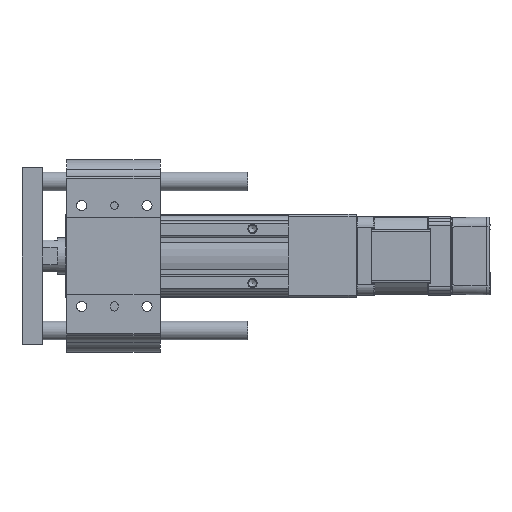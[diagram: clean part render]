
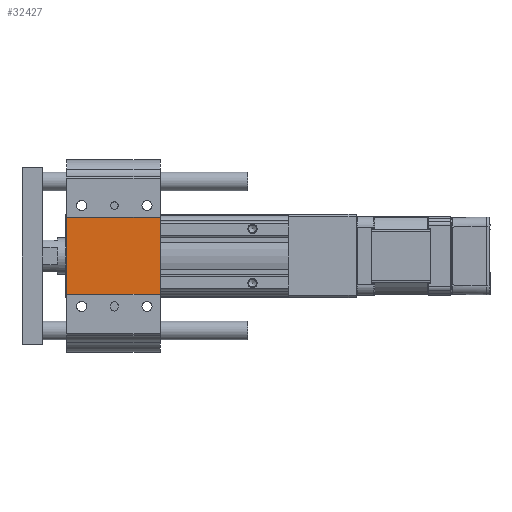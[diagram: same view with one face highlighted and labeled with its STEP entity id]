
A CAD part, front view. The second image highlights one B-rep face of the part: STEP entity #32427.
In plain terms, the highlighted planar face has unit normal (0, -1, 0).
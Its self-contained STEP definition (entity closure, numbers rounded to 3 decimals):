
#84 = DIRECTION ( 'NONE',  ( 0., 0., 1. ) ) ;
#1435 = ORIENTED_EDGE ( 'NONE', *, *, #40818, .T. ) ;
#1493 = VERTEX_POINT ( 'NONE', #9814 ) ;
#1783 = FACE_OUTER_BOUND ( 'NONE', #5564, .T. ) ;
#2848 = DIRECTION ( 'NONE',  ( 0., 0., 1. ) ) ;
#5564 = EDGE_LOOP ( 'NONE', ( #22070, #8144, #1435, #27360 ) ) ;
#6473 = EDGE_CURVE ( 'NONE', #13930, #21124, #30732, .T. ) ;
#8144 = ORIENTED_EDGE ( 'NONE', *, *, #15665, .F. ) ;
#9340 = CARTESIAN_POINT ( 'NONE',  ( -20.5, -30.5, -102.5 ) ) ;
#9814 = CARTESIAN_POINT ( 'NONE',  ( 20.5, -30.5, -50.5 ) ) ;
#12736 = CARTESIAN_POINT ( 'NONE',  ( -20.5, -30.5, -0.5 ) ) ;
#13022 = CARTESIAN_POINT ( 'NONE',  ( 20.5, -30.5, -0.5 ) ) ;
#13134 = VECTOR ( 'NONE', #17194, 1000. ) ;
#13930 = VERTEX_POINT ( 'NONE', #12736 ) ;
#15665 = EDGE_CURVE ( 'NONE', #22915, #13930, #32196, .T. ) ;
#15822 = CARTESIAN_POINT ( 'NONE',  ( -20.5, -30.5, -102.5 ) ) ;
#16546 = LINE ( 'NONE', #27304, #13134 ) ;
#17194 = DIRECTION ( 'NONE',  ( 1., 0., 0. ) ) ;
#20277 = VECTOR ( 'NONE', #24052, 1000. ) ;
#21124 = VERTEX_POINT ( 'NONE', #13022 ) ;
#22070 = ORIENTED_EDGE ( 'NONE', *, *, #6473, .F. ) ;
#22767 = CARTESIAN_POINT ( 'NONE',  ( 20.5, -30.5, -102.5 ) ) ;
#22887 = DIRECTION ( 'NONE',  ( 0., -1., 0. ) ) ;
#22915 = VERTEX_POINT ( 'NONE', #28854 ) ;
#22975 = LINE ( 'NONE', #22767, #31392 ) ;
#24052 = DIRECTION ( 'NONE',  ( 1., 0., 0. ) ) ;
#27304 = CARTESIAN_POINT ( 'NONE',  ( -20.5, -30.5, -50.5 ) ) ;
#27360 = ORIENTED_EDGE ( 'NONE', *, *, #38257, .T. ) ;
#28854 = CARTESIAN_POINT ( 'NONE',  ( -20.5, -30.5, -50.5 ) ) ;
#30732 = LINE ( 'NONE', #31567, #20277 ) ;
#31392 = VECTOR ( 'NONE', #84, 1000. ) ;
#31563 = AXIS2_PLACEMENT_3D ( 'NONE', #15822, #22887, #35695 ) ;
#31567 = CARTESIAN_POINT ( 'NONE',  ( -20.5, -30.5, -0.5 ) ) ;
#32196 = LINE ( 'NONE', #9340, #41067 ) ;
#32427 = ADVANCED_FACE ( 'NONE', ( #1783 ), #41387, .T. ) ;
#35695 = DIRECTION ( 'NONE',  ( 0., 0., -1. ) ) ;
#38257 = EDGE_CURVE ( 'NONE', #1493, #21124, #22975, .T. ) ;
#40818 = EDGE_CURVE ( 'NONE', #22915, #1493, #16546, .T. ) ;
#41067 = VECTOR ( 'NONE', #2848, 1000. ) ;
#41387 = PLANE ( 'NONE',  #31563 ) ;
